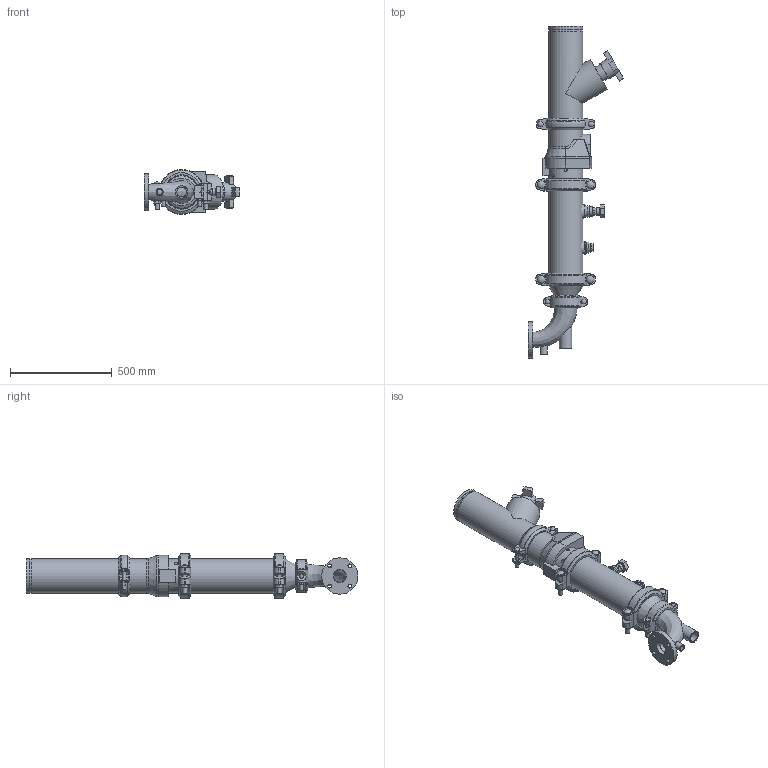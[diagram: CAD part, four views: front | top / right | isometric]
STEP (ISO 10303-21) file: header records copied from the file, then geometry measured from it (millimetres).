
FILE_DESCRIPTION(/* description */ ('VIC DVI PUMP DROP HORZ S/383 (OGSxFLG) (S/924-1.25)','CAx-IF Rec.Pracs.---Representation and Presentation of Product Manufacturing Information (PMI)---4.0---2014-10-13'),/* implementation_level */ '2;1');
FILE_NAME(/* name */ 'C:\Users\Vjadhav\AppData\Roaming\Autodesk\ApplicationPlugins\Victaulic.Temp\A892\Victaulic_IPS_Horizontal DVI_CL 150_Series 383 (OGSxFLG)_924 (1.25)_06.0x02.5 (150x65).stp',/* time_stamp */ '2022-02-28T15:44:02+05:00',/* author */ ('kkamble'),/* organization */ ('Victaulic'),/* preprocessor_version */ 'ST-DEVELOPER v17.2',/* originating_system */ 'Autodesk Inventor 2019',/* authorisation */ '');
FILE_SCHEMA (('AP242_MANAGED_MODEL_BASED_3D_ENGINEERING_MIM_LF { 1 0 10303 442 1 1 4 }'));
Length unit declared in the file: inch
Products named in the file (11): 383-924 (1.25)-06.0x02.5; Pipe-06.0; 177N-06.0; 107N-06.0; 789-06.0; 779-06.0; 924-04.0x01.25; 923-04.0x0.75; R100F-04.0x02.5; 177N-04.0; 050-06.0x04.0
Assembly tree (11 placements, depth 2):
  383-924 (1.25)-06.0x02.5
    177N-06.0  x2
    Pipe-06.0
    107N-06.0
    789-06.0
    779-06.0
    924-04.0x01.25
    923-04.0x0.75
    R100F-04.0x02.5
    177N-04.0
    050-06.0x04.0
Bounding box: 469.9 x 1628.78 x 219.2 mm (x, y, z)
Volume: 14876543.2 mm3; surface area: 2412476.1 mm2
Topology: 11 solids, 12 shells, 677 faces, 1773 edges, 1186 vertices
Faces by surface type: plane 371, cylinder 229, torus 24, cone 23, bspline 22, sphere 8
Full cylindrical faces by diameter (mm): 13.716 x4, 15.875 x4, 17.424 x2, 19.05 x4, 21.209 x4, 21.336 x1, 23.495 x2, 26.67 x3, 27.381 x2, 34.29 x1, 37.694 x4, 38.608 x1, 42.164 x1, 45.974 x4, 48.26 x1, 48.514 x1, 55.626 x2, 60.96 x1, 62.713 x1, 79.375 x1, 88.9 x1, 101.6 x1, 102.26 x2, 110.084 x2, 114.3 x5, 154.051 x4, 155.575 x3, 163.957 x7, 168.275 x19, 177.8 x1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
Entity records: 21146 total; most frequent: CARTESIAN_POINT 5283, DIRECTION 3233, ORIENTED_EDGE 3048, EDGE_CURVE 1524, AXIS2_PLACEMENT_3D 1220, VERTEX_POINT 1018, LINE 793, VECTOR 793
